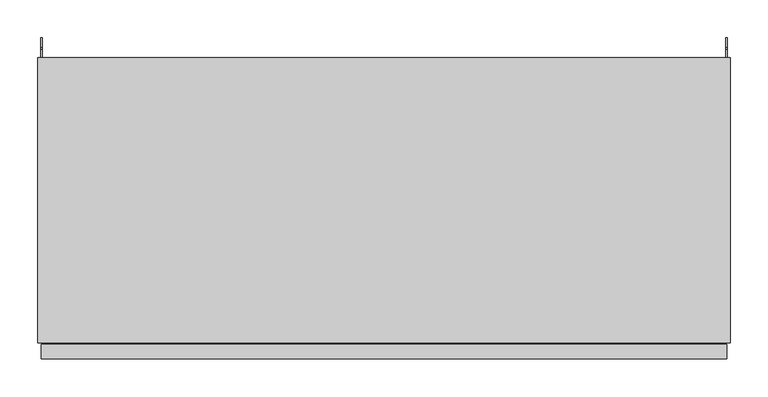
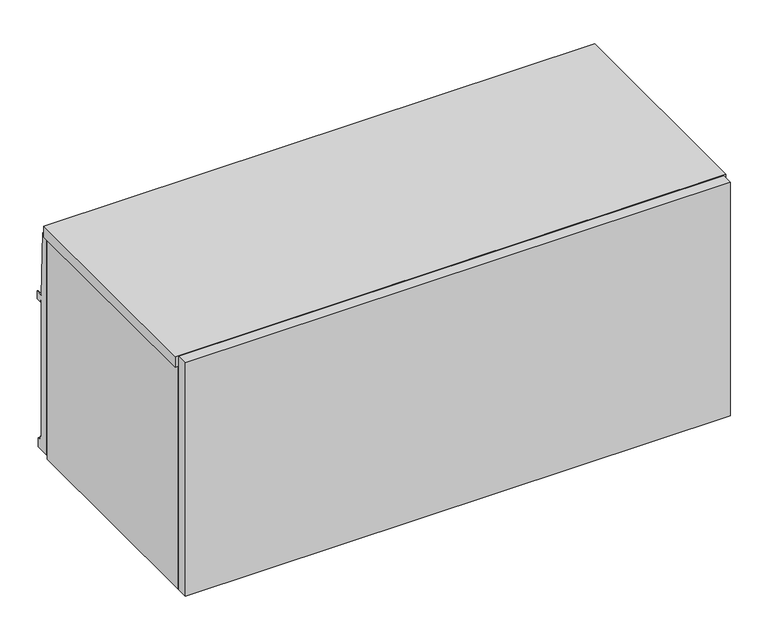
"""IFC4 building model written with IfcOpenShell, lengths in millimetres: furniture geometry, Steelcase - Universal Storage - Over the Case Bin - Flat Front : For Montage - 36W."""

from ifc_helpers import new_model, si_unit, frame, origin, place, context, project, spatial, polyline, outline, extrude, source, transform, mapped, element, save


def furniture_fc560c66(model_context):
    return source(origin(), model_context, "Body", "SweptSolid", [
        extrude(outline(polyline([(4.4448587, -379.476), (909.9703, -379.476), (909.9703, -398.526), (4.4448587, -398.526), (4.4448587, -379.476)])), frame((0.0, 0.0, 1266.8226746), z_axis=(0.0, 0.0, 1.0), x_axis=(1.0, 0.0, 0.0)), (0.0, 0.0, 1.0), 409.5773254),
        extrude(outline(polyline([(0.0, 1657.096), (10.1677703, 1657.096), (13.3857995, 1545.8185744), (26.0095997, 1545.8185744), (26.0095997, 1532.1025512), (17.5768, 1532.1025512), (17.5768, 1537.1064608), (13.3349998, 1537.1064608), (13.3349998, 1522.6538546), (14.2747998, 1522.6538546), (14.2747998, 1296.0858527), (17.2466001, 1296.0858527), (17.2466001, 1289.7358043), (22.5806007, 1289.7358043), (22.5806007, 1274.2164027), (0.0, 1274.2164027), (0.0, 1657.096)])), frame((908.8882, 0.0, 0.0), z_axis=(1.0, 0.0, 0.0), x_axis=(0.0, 1.0, 0.0)), (0.0, 0.0, 1.0), 1.905),
        extrude(outline(polyline([(914.4, -377.213238), (0.0, -377.213238), (0.0, 0.0), (914.4, 0.0), (914.4, -377.213238)])), frame((0.0, 0.0, 1657.35), z_axis=(0.0, 0.0, 1.0), x_axis=(1.0, 0.0, 0.0)), (0.0, 0.0, 1.0), 19.05),
        extrude(outline(polyline([(15.875, -377.213238), (5.5118, -377.213238), (5.5118, 0.0), (15.875, 0.0), (15.875, -377.213238)])), frame((0.0, 0.0, 1265.428), z_axis=(0.0, 0.0, 1.0), x_axis=(1.0, 0.0, 0.0)), (0.0, 0.0, 1.0), 391.6679457),
        extrude(outline(polyline([(913.2568665, -377.213238), (898.525, -377.213238), (898.525, 0.0), (913.2568665, 0.0), (913.2568665, -377.213238)])), frame((0.0, 0.0, 1265.428), z_axis=(0.0, 0.0, 1.0), x_axis=(1.0, 0.0, 0.0)), (0.0, 0.0, 1.0), 391.6679457),
        extrude(outline(polyline([(0.0, 1657.096), (10.1677703, 1657.096), (13.3857995, 1545.8185744), (26.0095997, 1545.8185744), (26.0095997, 1532.1025512), (17.5768, 1532.1025512), (17.5768, 1537.1064608), (13.3349998, 1537.1064608), (13.3349998, 1522.6538546), (14.2747998, 1522.6538546), (14.2747998, 1296.0858527), (17.2466001, 1296.0858527), (17.2466001, 1289.7358043), (22.5806007, 1289.7358043), (22.5806007, 1274.2164027), (0.0, 1274.2164027), (0.0, 1657.096)])), frame((3.6068, 0.0, 0.0), z_axis=(1.0, 0.0, 0.0), x_axis=(0.0, 1.0, 0.0)), (0.0, 0.0, 1.0), 1.905),
        extrude(outline(polyline([(-35.4584098, 1372.819257), (-27.0763996, 1372.819257), (-27.0763996, 1360.1191601), (-33.4264117, 1360.1191601), (-33.4264117, 1323.1622589), (-27.0763996, 1323.1622589), (-27.0763996, 1265.428), (-35.4584098, 1265.428), (-35.4584098, 1293.054213), (-46.1263996, 1293.054213), (-46.1263996, 1268.1875622), (-59.9694137, 1268.1875622), (-59.9694137, 1294.8575912), (-332.8542818, 1294.8575912), (-332.8542818, 1268.1875622), (-377.3042823, 1268.1875622), (-377.3042823, 1310.7072052), (-35.4584098, 1310.7072052), (-35.4584098, 1372.819257)])), frame((15.875, 0.0, 0.0), z_axis=(1.0, 0.0, 0.0), x_axis=(0.0, 1.0, 0.0)), (0.0, 0.0, 1.0), 882.65),
    ])


if __name__ == "__main__":
    model = new_model("IFC4")
    model_context = context("Model", 3, world=origin())
    ifc_project = project(units=[si_unit("LENGTHUNIT", "METRE", prefix="MILLI")], contexts=[model_context])
    site = spatial("IfcSite", under=ifc_project)
    building = spatial("IfcBuilding", under=site)
    placement = place(None, origin())
    furniture_shape = furniture_fc560c66(model_context)
    element("IfcFurniture", 1, ObjectType="Steelcase - Universal Storage - Over the Case Bin - Flat Front : For Montage - 36W", at=placement, inside=building, context=model_context, shape_type="MappedRepresentation", body=[
        mapped(furniture_shape, transform((0.0, 0.0, 0.0), x_axis=(1.0, 0.0, 0.0), y_axis=(0.0, 1.0, 0.0), z_axis=(0.0, 0.0, 1.0))),
    ])
    save(model, "model.ifc")
